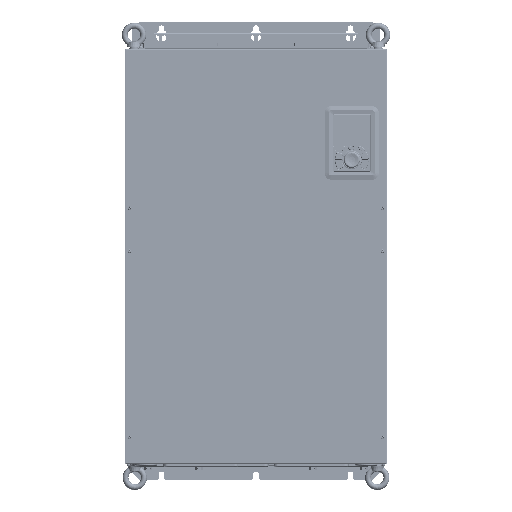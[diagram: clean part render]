
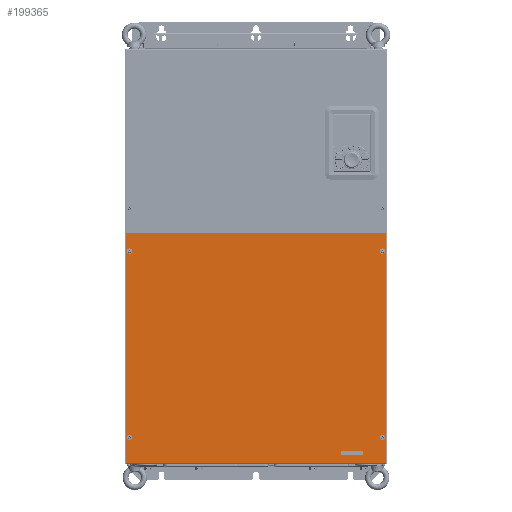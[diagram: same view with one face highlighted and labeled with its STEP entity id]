
A CAD part, top view. The second image highlights one B-rep face of the part: STEP entity #199365.
In plain terms, the highlighted planar face has unit normal (0, 0, 1).
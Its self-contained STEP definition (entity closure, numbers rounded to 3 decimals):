
#198403=DIRECTION('',(-1.,0.,0.));
#198404=VECTOR('',#198403,488.);
#198405=CARTESIAN_POINT('',(244.,218.7,1.2));
#198406=LINE('',#198405,#198404);
#198554=DIRECTION('',(1.,0.,0.));
#198555=VECTOR('',#198554,4.3);
#198556=CARTESIAN_POINT('',(244.,219.9,1.2));
#198557=LINE('',#198556,#198555);
#198558=DIRECTION('',(1.,0.,0.));
#198559=VECTOR('',#198558,4.3);
#198560=CARTESIAN_POINT('',(-248.3,219.9,1.2));
#198561=LINE('',#198560,#198559);
#198562=DIRECTION('',(0.,-1.,0.));
#198563=VECTOR('',#198562,1.2);
#198564=CARTESIAN_POINT('',(-244.,219.9,1.2));
#198565=LINE('',#198564,#198563);
#198566=DIRECTION('',(0.,-1.,0.));
#198567=VECTOR('',#198566,7.);
#198568=CARTESIAN_POINT('',(162.,-196.4,1.2));
#198569=LINE('',#198568,#198567);
#198570=DIRECTION('',(1.,0.,0.));
#198571=VECTOR('',#198570,41.);
#198572=CARTESIAN_POINT('',(162.,-203.4,1.2));
#198573=LINE('',#198572,#198571);
#198574=DIRECTION('',(0.,1.,0.));
#198575=VECTOR('',#198574,7.);
#198576=CARTESIAN_POINT('',(203.,-203.4,1.2));
#198577=LINE('',#198576,#198575);
#198578=DIRECTION('',(-1.,0.,0.));
#198579=VECTOR('',#198578,41.);
#198580=CARTESIAN_POINT('',(203.,-196.4,1.2));
#198581=LINE('',#198580,#198579);
#198582=DIRECTION('',(0.,-1.,0.));
#198583=VECTOR('',#198582,1.2);
#198584=CARTESIAN_POINT('',(244.,219.9,1.2));
#198585=LINE('',#198584,#198583);
#198624=DIRECTION('',(0.,1.,0.));
#198625=VECTOR('',#198624,438.1);
#198626=CARTESIAN_POINT('',(248.3,-218.2,1.2));
#198627=LINE('',#198626,#198625);
#198698=DIRECTION('',(1.,0.,0.));
#198699=VECTOR('',#198698,496.6);
#198700=CARTESIAN_POINT('',(-248.3,-218.2,1.2));
#198701=LINE('',#198700,#198699);
#198800=DIRECTION('',(0.,-1.,0.));
#198801=VECTOR('',#198800,438.1);
#198802=CARTESIAN_POINT('',(-248.3,219.9,1.2));
#198803=LINE('',#198802,#198801);
#198898=CARTESIAN_POINT('',(244.,218.7,1.2));
#198900=VERTEX_POINT('',#198898);
#198906=CARTESIAN_POINT('',(-244.,218.7,1.2));
#198907=VERTEX_POINT('',#198906);
#198940=CARTESIAN_POINT('',(-244.,219.9,1.2));
#198941=VERTEX_POINT('',#198940);
#198960=CARTESIAN_POINT('',(-248.3,219.9,1.2));
#198961=VERTEX_POINT('',#198960);
#198962=CARTESIAN_POINT('',(244.,219.9,1.2));
#198963=VERTEX_POINT('',#198962);
#198964=CARTESIAN_POINT('',(248.3,219.9,1.2));
#198965=VERTEX_POINT('',#198964);
#198966=CARTESIAN_POINT('',(248.3,-218.2,1.2));
#198967=VERTEX_POINT('',#198966);
#198968=CARTESIAN_POINT('',(-248.3,-218.2,1.2));
#198969=VERTEX_POINT('',#198968);
#198970=CARTESIAN_POINT('',(162.,-196.4,1.2));
#198971=CARTESIAN_POINT('',(162.,-203.4,1.2));
#198972=VERTEX_POINT('',#198970);
#198973=VERTEX_POINT('',#198971);
#198974=CARTESIAN_POINT('',(203.,-203.4,1.2));
#198975=VERTEX_POINT('',#198974);
#198976=CARTESIAN_POINT('',(203.,-196.4,1.2));
#198977=VERTEX_POINT('',#198976);
#199335=CARTESIAN_POINT('',(0.,0.,1.2));
#199336=DIRECTION('',(0.,0.,1.));
#199337=DIRECTION('',(1.,0.,0.));
#199338=AXIS2_PLACEMENT_3D('',#199335,#199336,#199337);
#199339=PLANE('',#199338);
#199340=ORIENTED_EDGE('',*,*,#199056,.F.);
#199342=ORIENTED_EDGE('',*,*,#199341,.F.);
#199344=ORIENTED_EDGE('',*,*,#199343,.T.);
#199346=ORIENTED_EDGE('',*,*,#199345,.F.);
#199348=ORIENTED_EDGE('',*,*,#199347,.F.);
#199350=ORIENTED_EDGE('',*,*,#199349,.F.);
#199351=ORIENTED_EDGE('',*,*,#199327,.T.);
#199352=ORIENTED_EDGE('',*,*,#199269,.T.);
#199353=EDGE_LOOP('',(#199340,#199342,#199344,#199346,#199348,#199350,#199351,
#199352));
#199354=FACE_OUTER_BOUND('',#199353,.F.);
#199356=ORIENTED_EDGE('',*,*,#199355,.T.);
#199358=ORIENTED_EDGE('',*,*,#199357,.T.);
#199360=ORIENTED_EDGE('',*,*,#199359,.T.);
#199362=ORIENTED_EDGE('',*,*,#199361,.T.);
#199363=EDGE_LOOP('',(#199356,#199358,#199360,#199362));
#199364=FACE_BOUND('',#199363,.F.);
#199365=ADVANCED_FACE('',(#199354,#199364),#199339,.T.);
#199056=EDGE_CURVE('',#198900,#198907,#198406,.T.);
#199269=EDGE_CURVE('',#198941,#198907,#198565,.T.);
#199327=EDGE_CURVE('',#198961,#198941,#198561,.T.);
#199341=EDGE_CURVE('',#198963,#198900,#198585,.T.);
#199343=EDGE_CURVE('',#198963,#198965,#198557,.T.);
#199345=EDGE_CURVE('',#198967,#198965,#198627,.T.);
#199347=EDGE_CURVE('',#198969,#198967,#198701,.T.);
#199349=EDGE_CURVE('',#198961,#198969,#198803,.T.);
#199355=EDGE_CURVE('',#198972,#198973,#198569,.T.);
#199357=EDGE_CURVE('',#198973,#198975,#198573,.T.);
#199359=EDGE_CURVE('',#198975,#198977,#198577,.T.);
#199361=EDGE_CURVE('',#198977,#198972,#198581,.T.);
